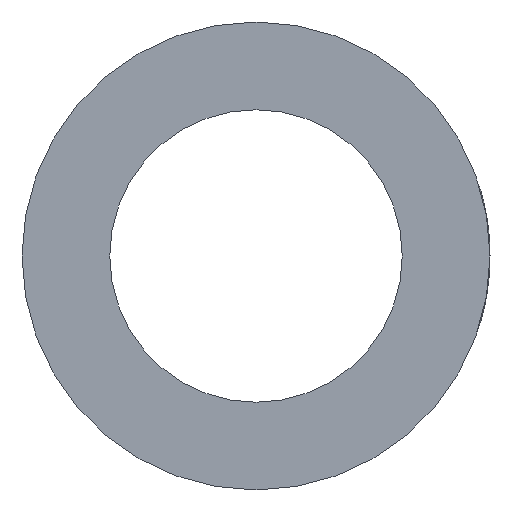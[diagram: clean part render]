
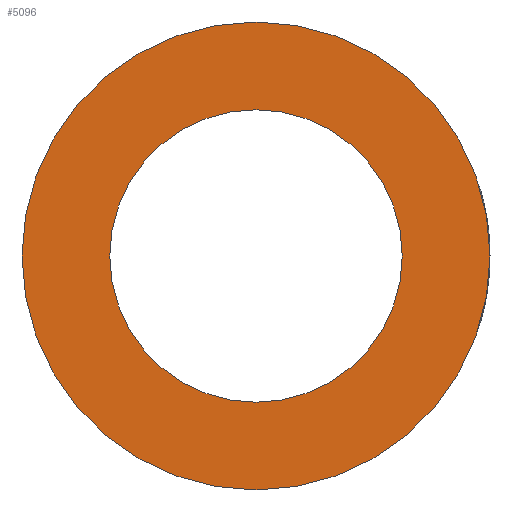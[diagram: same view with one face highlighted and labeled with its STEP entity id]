
A CAD part, left-side view. The second image highlights one B-rep face of the part: STEP entity #5096.
In plain terms, the highlighted planar face has unit normal (-1, 0, 0).
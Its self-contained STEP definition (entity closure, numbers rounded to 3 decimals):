
#113=PLANE('',#5493);
#351=CIRCLE('',#5492,16.);
#352=CIRCLE('',#5494,10.);
#1528=ORIENTED_EDGE('',*,*,#3064,.T.);
#1529=ORIENTED_EDGE('',*,*,#3063,.F.);
#3063=EDGE_CURVE('',#3831,#3831,#351,.T.);
#3064=EDGE_CURVE('',#3832,#3832,#352,.T.);
#3831=VERTEX_POINT('',#8008);
#3832=VERTEX_POINT('',#8011);
#4340=EDGE_LOOP('',(#1528));
#4341=EDGE_LOOP('',(#1529));
#4712=FACE_BOUND('',#4340,.T.);
#4713=FACE_BOUND('',#4341,.T.);
#5096=ADVANCED_FACE('',(#4712,#4713),#113,.F.);
#5492=AXIS2_PLACEMENT_3D('',#8007,#6025,#6026);
#5493=AXIS2_PLACEMENT_3D('',#8009,#6027,#6028);
#5494=AXIS2_PLACEMENT_3D('',#8010,#6029,#6030);
#6025=DIRECTION('',(1.,0.,0.));
#6026=DIRECTION('',(0.,0.,-1.));
#6027=DIRECTION('',(1.,0.,0.));
#6028=DIRECTION('',(0.,0.,-1.));
#6029=DIRECTION('',(1.,0.,0.));
#6030=DIRECTION('',(0.,0.,-1.));
#8007=CARTESIAN_POINT('',(-22.5,0.,0.));
#8008=CARTESIAN_POINT('',(-22.5,0.,-16.));
#8009=CARTESIAN_POINT('',(-22.5,0.,0.));
#8010=CARTESIAN_POINT('',(-22.5,0.,0.));
#8011=CARTESIAN_POINT('',(-22.5,0.,-10.));
